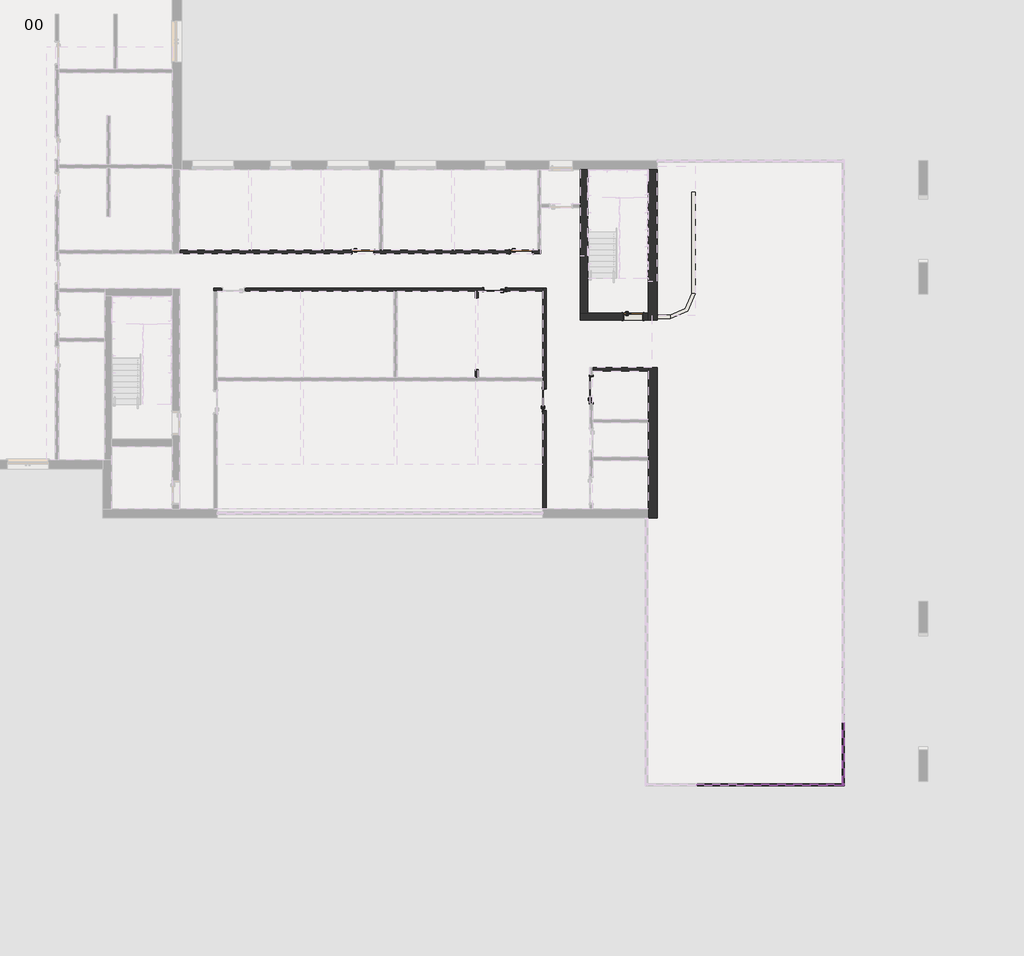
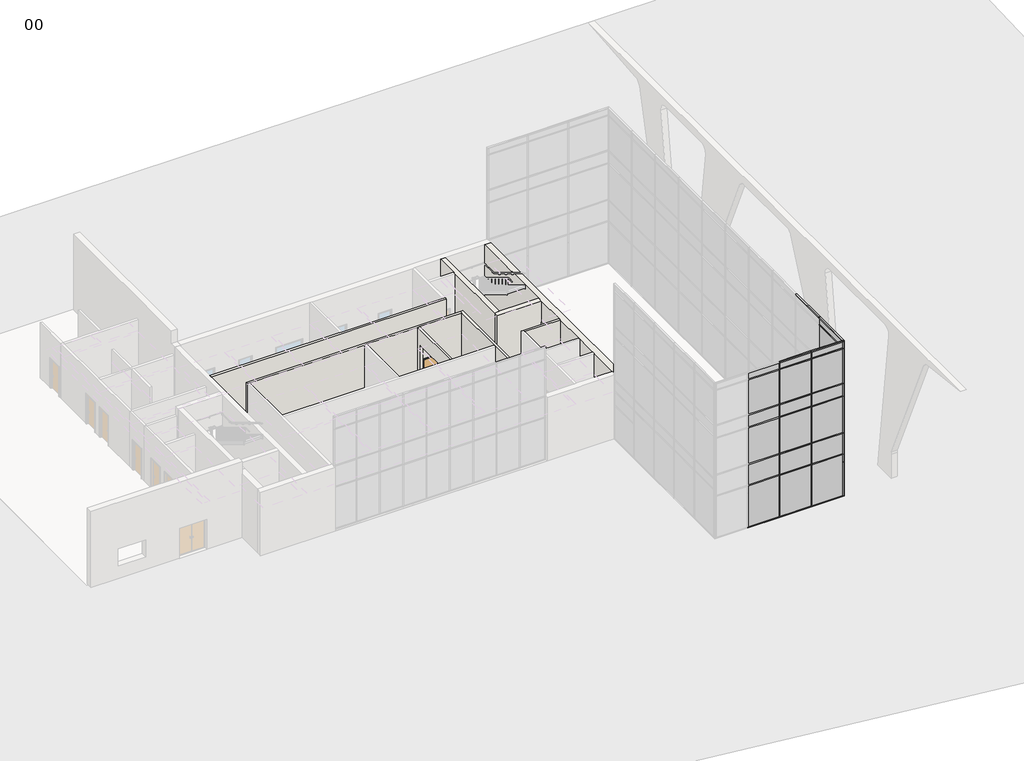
# One storey, part 4 of 11: 51 members, 24 plates, 11 walls, 6 doors.
"""IFC4 building model written with IfcOpenShell, lengths in millimetres."""

from ifc_helpers import new_model, si_unit, point, frame, frame_2d, origin, origin_with_axes, place, context, project, spatial, polyline, circle_curve, trimmed, segment, composite_curve, outline, extrude, faceted_brep, transform, mapped, element, save
from components import doors_intsgl_1_1010x2110mm_12a6edaf, doors_intsgl_1_1200x2110mm_e831e5cc, doors_intsgl_3_910x2110mm_ed6625c4, rectangular_mullion_curtainwallmullion_rectangular_generic_8ae0e668, rectangular_mullion_curtainwallmullion_rectangular_generic_15c16c91, rectangular_mullion_curtainwallmullion_rectangular_generic_08fbcc14, rectangular_mullion_curtainwallmullion_rectangular_generic_83e55909, rectangular_mullion_curtainwallmullion_rectangular_generic_d5294c93, rectangular_mullion_curtainwallmullion_rectangular_generic_779ca808, rectangular_mullion_curtainwallmullion_rectangular_generic_397fb318, rectangular_mullion_curtainwallmullion_rectangular_generic_0800385b, rectangular_mullion_curtainwallmullion_rectangular_generic_25199054, rectangular_mullion_curtainwallmullion_rectangular_generic_12ad56c0, rectangular_mullion_curtainwallmullion_rectangular_generic_bd817207, rectangular_mullion_curtainwallmullion_rectangular_generic_55e77994, rectangular_mullion_curtainwallmullion_rectangular_generic_f1446028, rectangular_mullion_curtainwallmullion_rectangular_generic_cb270087, rectangular_mullion_curtainwallmullion_rectangular_generic_974284e1, rectangular_mullion_curtainwallmullion_rectangular_generic_654ac675, rectangular_mullion_curtainwallmullion_rectangular_generic_e7c47ca9, rectangular_mullion_curtainwallmullion_rectangular_generic_c0600e94, rectangular_mullion_curtainwallmullion_rectangular_generic_3bdb59d8, rectangular_mullion_curtainwallmullion_rectangular_generic_aa8766cf, rectangular_mullion_curtainwallmullion_rectangular_generic_a50df724, rectangular_mullion_curtainwallmullion_rectangular_generic_c640f651, rectangular_mullion_curtainwallmullion_rectangular_generic_afb0b622, rectangular_mullion_curtainwallmullion_rectangular_generic_d47b8a9d, system_panel_curtainpanel_glazed_9120b6e5, system_panel_curtainpanel_glazed_34fb785a, system_panel_curtainpanel_glazed_a0842033, system_panel_curtainpanel_glazed_19b159b3, system_panel_curtainpanel_glazed_62d472f1, system_panel_curtainpanel_glazed_9c2ad216, system_panel_curtainpanel_solid_fc584997, system_panel_curtainpanel_solid_62146879, system_panel_curtainpanel_solid_ebe6707a, system_panel_curtainpanel_solid_ff987cd1, system_panel_curtainpanel_solid_60141125, system_panel_curtainpanel_solid_5de49f81

model = new_model("IFC4")

# Units and contexts
model_context = context("Model", 3, world=origin())
ifc_project = project(units=[si_unit("LENGTHUNIT", "METRE", prefix="MILLI")], contexts=[model_context])

# Site, building, storey
site = spatial("IfcSite", under=ifc_project)
building = spatial("IfcBuilding", under=site)
storey = spatial("IfcBuildingStorey", under=building, Name="00", Elevation=0.0)

# Doors
placement = place(None, origin())
doors_intsgl_1_1010x2110mm_shape = doors_intsgl_1_1010x2110mm_12a6edaf(model_context)
element("IfcDoor", 1, ObjectType="Doors_IntSgl_1 : 1010x2110mm", at=placement, inside=storey, context=model_context, shape_type="MappedRepresentation", body=[
    mapped(doors_intsgl_1_1010x2110mm_shape, transform((433317.3206883, -385124.0026386, 0.0), x_axis=(1.0, 0.0, 0.0), y_axis=(0.0, 1.0, 0.0), z_axis=(0.0, 0.0, 1.0))),
])
element("IfcDoor", 2, ObjectType="Doors_IntSgl_1 : 1010x2110mm", at=placement, inside=storey, context=model_context, shape_type="MappedRepresentation", body=[
    mapped(doors_intsgl_1_1010x2110mm_shape, transform((440217.3206883, -385124.0026386, 0.0), x_axis=(1.0, 0.0, 0.0), y_axis=(0.0, 1.0, 0.0), z_axis=(0.0, 0.0, 1.0))),
])
element("IfcDoor", 3, ObjectType="Doors_IntSgl_1 : 1010x2110mm", at=placement, inside=storey, context=model_context, shape_type="MappedRepresentation", body=[
    mapped(doors_intsgl_1_1010x2110mm_shape, transform((439053.3206883, -386774.0026386, 0.0), x_axis=(-1.0, 0.0, 0.0), y_axis=(0.0, -1.0, 0.0), z_axis=(0.0, 0.0, 1.0))),
])
element("IfcDoor", 4, ObjectType="Doors_IntSgl_1 : 1010x2110mm", at=placement, inside=storey, context=model_context, shape_type="MappedRepresentation", body=[
    mapped(doors_intsgl_1_1010x2110mm_shape, transform((441217.3206883, -391573.0026386, 0.0), x_axis=(0.0, 1.0, 0.0), y_axis=(-1.0, 0.0, 0.0), z_axis=(0.0, 0.0, 1.0))),
])
doors_intsgl_1_1200x2110mm_shape = doors_intsgl_1_1200x2110mm_e831e5cc(model_context)
element("IfcDoor", 5, ObjectType="Doors_IntSgl_1 : 1200x2110mm", at=placement, inside=storey, context=model_context, shape_type="MappedRepresentation", body=[
    mapped(doors_intsgl_1_1200x2110mm_shape, transform((443263.3206883, -391128.0026386, 0.0), x_axis=(0.0, 1.0, 0.0), y_axis=(-1.0, 0.0, 0.0), z_axis=(0.0, 0.0, 1.0))),
])
doors_intsgl_3_910x2110mm_shape = doors_intsgl_3_910x2110mm_ed6625c4(model_context)
element("IfcDoor", 6, ObjectType="Doors_IntSgl_3 : 910x2110mm", at=placement, inside=storey, context=model_context, shape_type="MappedRepresentation", body=[
    mapped(doors_intsgl_3_910x2110mm_shape, transform((445083.3206883, -387955.0026386, 0.0), x_axis=(1.0, 0.0, 0.0), y_axis=(0.0, 1.0, 0.0), z_axis=(0.0, 0.0, 1.0))),
])

# Members
rectangular_mullion_curtainwallmullion_rectangular_generic_shape = rectangular_mullion_curtainwallmullion_rectangular_generic_8ae0e668(model_context)
element("IfcMember", 7, ObjectType="Rectangular Mullion : CurtainWallMullion_Rectangular_Generic", at=placement, inside=storey, context=model_context, shape_type="MappedRepresentation", body=[
    mapped(rectangular_mullion_curtainwallmullion_rectangular_generic_shape, transform((452089.3206882, -408366.0026386, 10486.7), x_axis=(-1.0, 0.0, 0.0), y_axis=(0.0, 1.0, 0.0), z_axis=(0.0, 0.0, -1.0))),
])
element("IfcMember", 8, ObjectType="Rectangular Mullion : CurtainWallMullion_Rectangular_Generic", at=placement, inside=storey, context=model_context, shape_type="MappedRepresentation", body=[
    mapped(rectangular_mullion_curtainwallmullion_rectangular_generic_shape, transform((449957.3206883, -408366.0026386, 10486.7), x_axis=(-1.0, 0.0, 0.0), y_axis=(0.0, 1.0, 0.0), z_axis=(0.0, 0.0, -1.0))),
])
rectangular_mullion_curtainwallmullion_rectangular_generic_2_shape = rectangular_mullion_curtainwallmullion_rectangular_generic_15c16c91(model_context)
element("IfcMember", 9, ObjectType="Rectangular Mullion : CurtainWallMullion_Rectangular_Generic", at=placement, inside=storey, context=model_context, shape_type="MappedRepresentation", body=[
    mapped(rectangular_mullion_curtainwallmullion_rectangular_generic_2_shape, transform((454246.3206883, -408366.0026386, 10486.7), x_axis=(0.0, -1.0, 0.0), y_axis=(-1.0, 0.0, 0.0), z_axis=(0.0, 0.0, -1.0))),
])
element("IfcMember", 10, ObjectType="Rectangular Mullion : CurtainWallMullion_Rectangular_Generic", at=placement, inside=storey, context=model_context, shape_type="MappedRepresentation", body=[
    mapped(rectangular_mullion_curtainwallmullion_rectangular_generic_2_shape, transform((454246.3206883, -408366.0026386, 10950.0), x_axis=(1.0, 0.0, 0.0), y_axis=(0.0, 1.0, 0.0), z_axis=(0.0, 0.0, 1.0))),
])
rectangular_mullion_curtainwallmullion_rectangular_generic_3_shape = rectangular_mullion_curtainwallmullion_rectangular_generic_08fbcc14(model_context)
element("IfcMember", 11, ObjectType="Rectangular Mullion : CurtainWallMullion_Rectangular_Generic", at=placement, inside=storey, context=model_context, shape_type="MappedRepresentation", body=[
    mapped(rectangular_mullion_curtainwallmullion_rectangular_generic_3_shape, transform((452089.3206882, -408366.0026386, 8000.0), x_axis=(-1.0, 0.0, 0.0), y_axis=(0.0, 1.0, 0.0), z_axis=(0.0, 0.0, -1.0))),
])
element("IfcMember", 12, ObjectType="Rectangular Mullion : CurtainWallMullion_Rectangular_Generic", at=placement, inside=storey, context=model_context, shape_type="MappedRepresentation", body=[
    mapped(rectangular_mullion_curtainwallmullion_rectangular_generic_3_shape, transform((449957.3206883, -408366.0026386, 8000.0), x_axis=(-1.0, 0.0, 0.0), y_axis=(0.0, 1.0, 0.0), z_axis=(0.0, 0.0, -1.0))),
])
rectangular_mullion_curtainwallmullion_rectangular_generic_4_shape = rectangular_mullion_curtainwallmullion_rectangular_generic_83e55909(model_context)
element("IfcMember", 13, ObjectType="Rectangular Mullion : CurtainWallMullion_Rectangular_Generic", at=placement, inside=storey, context=model_context, shape_type="MappedRepresentation", body=[
    mapped(rectangular_mullion_curtainwallmullion_rectangular_generic_4_shape, transform((454246.3206883, -408366.0026386, 10486.7), x_axis=(1.0, 0.0, 0.0), y_axis=(0.0, 1.0, 0.0), z_axis=(0.0, 0.0, 1.0))),
])
element("IfcMember", 14, ObjectType="Rectangular Mullion : CurtainWallMullion_Rectangular_Generic", at=placement, inside=storey, context=model_context, shape_type="MappedRepresentation", body=[
    mapped(rectangular_mullion_curtainwallmullion_rectangular_generic_4_shape, transform((454246.3206883, -408366.0026386, 8000.0), x_axis=(0.0, -1.0, 0.0), y_axis=(-1.0, 0.0, 0.0), z_axis=(0.0, 0.0, -1.0))),
])
rectangular_mullion_curtainwallmullion_rectangular_generic_5_shape = rectangular_mullion_curtainwallmullion_rectangular_generic_d5294c93(model_context)
element("IfcMember", 15, ObjectType="Rectangular Mullion : CurtainWallMullion_Rectangular_Generic", at=placement, inside=storey, context=model_context, shape_type="MappedRepresentation", body=[
    mapped(rectangular_mullion_curtainwallmullion_rectangular_generic_5_shape, transform((452089.3206882, -408366.0026386, 50.0), x_axis=(-1.0, 0.0, 0.0), y_axis=(0.0, 1.0, 0.0), z_axis=(0.0, 0.0, -1.0))),
])
element("IfcMember", 16, ObjectType="Rectangular Mullion : CurtainWallMullion_Rectangular_Generic", at=placement, inside=storey, context=model_context, shape_type="MappedRepresentation", body=[
    mapped(rectangular_mullion_curtainwallmullion_rectangular_generic_5_shape, transform((449957.3206883, -408366.0026386, 50.0), x_axis=(-1.0, 0.0, 0.0), y_axis=(0.0, 1.0, 0.0), z_axis=(0.0, 0.0, -1.0))),
])
rectangular_mullion_curtainwallmullion_rectangular_generic_6_shape = rectangular_mullion_curtainwallmullion_rectangular_generic_779ca808(model_context)
element("IfcMember", 17, ObjectType="Rectangular Mullion : CurtainWallMullion_Rectangular_Generic", at=placement, inside=storey, context=model_context, shape_type="MappedRepresentation", body=[
    mapped(rectangular_mullion_curtainwallmullion_rectangular_generic_6_shape, transform((454246.3206883, -408366.0026386, 2450.0), x_axis=(1.0, 0.0, 0.0), y_axis=(0.0, 1.0, 0.0), z_axis=(0.0, 0.0, 1.0))),
])
rectangular_mullion_curtainwallmullion_rectangular_generic_7_shape = rectangular_mullion_curtainwallmullion_rectangular_generic_397fb318(model_context)
element("IfcMember", 18, ObjectType="Rectangular Mullion : CurtainWallMullion_Rectangular_Generic", at=placement, inside=storey, context=model_context, shape_type="MappedRepresentation", body=[
    mapped(rectangular_mullion_curtainwallmullion_rectangular_generic_7_shape, transform((454246.3206883, -408366.0026386, 50.0), x_axis=(0.0, -1.0, 0.0), y_axis=(-1.0, 0.0, 0.0), z_axis=(0.0, 0.0, -1.0))),
])
rectangular_mullion_curtainwallmullion_rectangular_generic_8_shape = rectangular_mullion_curtainwallmullion_rectangular_generic_0800385b(model_context)
element("IfcMember", 19, ObjectType="Rectangular Mullion : CurtainWallMullion_Rectangular_Generic", at=placement, inside=storey, context=model_context, shape_type="MappedRepresentation", body=[
    mapped(rectangular_mullion_curtainwallmullion_rectangular_generic_8_shape, transform((454246.3206883, -408366.0026386, 11000.0), x_axis=(0.0, 0.0, 1.0), y_axis=(-1.0, 0.0, 0.0), z_axis=(0.0, -1.0, 0.0))),
])
rectangular_mullion_curtainwallmullion_rectangular_generic_9_shape = rectangular_mullion_curtainwallmullion_rectangular_generic_25199054(model_context)
element("IfcMember", 20, ObjectType="Rectangular Mullion : CurtainWallMullion_Rectangular_Generic", at=placement, inside=storey, context=model_context, shape_type="MappedRepresentation", body=[
    mapped(rectangular_mullion_curtainwallmullion_rectangular_generic_9_shape, transform((452089.3206882, -408366.0026386, 11000.0), x_axis=(0.0, 0.0, 1.0), y_axis=(0.0, 1.0, 0.0), z_axis=(-1.0, 0.0, 0.0))),
])
rectangular_mullion_curtainwallmullion_rectangular_generic_10_shape = rectangular_mullion_curtainwallmullion_rectangular_generic_12ad56c0(model_context)
element("IfcMember", 21, ObjectType="Rectangular Mullion : CurtainWallMullion_Rectangular_Generic", at=placement, inside=storey, context=model_context, shape_type="MappedRepresentation", body=[
    mapped(rectangular_mullion_curtainwallmullion_rectangular_generic_10_shape, transform((454246.3206883, -405626.4026384, 11000.0), x_axis=(0.0, 0.0, 1.0), y_axis=(-1.0, 0.0, 0.0), z_axis=(0.0, -1.0, 0.0))),
])
rectangular_mullion_curtainwallmullion_rectangular_generic_11_shape = rectangular_mullion_curtainwallmullion_rectangular_generic_bd817207(model_context)
element("IfcMember", 22, ObjectType="Rectangular Mullion : CurtainWallMullion_Rectangular_Generic", at=placement, inside=storey, context=model_context, shape_type="MappedRepresentation", body=[
    mapped(rectangular_mullion_curtainwallmullion_rectangular_generic_11_shape, transform((454246.3206883, -408316.0026386, 4500.0), x_axis=(0.0, 0.0, 1.0), y_axis=(-1.0, 0.0, 0.0), z_axis=(0.0, -1.0, 0.0))),
])
element("IfcMember", 23, ObjectType="Rectangular Mullion : CurtainWallMullion_Rectangular_Generic", at=placement, inside=storey, context=model_context, shape_type="MappedRepresentation", body=[
    mapped(rectangular_mullion_curtainwallmullion_rectangular_generic_11_shape, transform((454246.3206883, -408316.0026386, 7100.0), x_axis=(0.0, 0.0, 1.0), y_axis=(-1.0, 0.0, 0.0), z_axis=(0.0, -1.0, 0.0))),
])
element("IfcMember", 24, ObjectType="Rectangular Mullion : CurtainWallMullion_Rectangular_Generic", at=placement, inside=storey, context=model_context, shape_type="MappedRepresentation", body=[
    mapped(rectangular_mullion_curtainwallmullion_rectangular_generic_11_shape, transform((454246.3206883, -408316.0026386, 10486.7), x_axis=(0.0, 0.0, 1.0), y_axis=(-1.0, 0.0, 0.0), z_axis=(0.0, -1.0, 0.0))),
])
element("IfcMember", 25, ObjectType="Rectangular Mullion : CurtainWallMullion_Rectangular_Generic", at=placement, inside=storey, context=model_context, shape_type="MappedRepresentation", body=[
    mapped(rectangular_mullion_curtainwallmullion_rectangular_generic_11_shape, transform((454246.3206883, -408316.0026386, 8000.0), x_axis=(0.0, 0.0, 1.0), y_axis=(-1.0, 0.0, 0.0), z_axis=(0.0, -1.0, 0.0))),
])
element("IfcMember", 26, ObjectType="Rectangular Mullion : CurtainWallMullion_Rectangular_Generic", at=placement, inside=storey, context=model_context, shape_type="MappedRepresentation", body=[
    mapped(rectangular_mullion_curtainwallmullion_rectangular_generic_11_shape, transform((454246.3206883, -408316.0026386, 3000.0), x_axis=(0.0, 0.0, 1.0), y_axis=(-1.0, 0.0, 0.0), z_axis=(0.0, -1.0, 0.0))),
])
rectangular_mullion_curtainwallmullion_rectangular_generic_12_shape = rectangular_mullion_curtainwallmullion_rectangular_generic_55e77994(model_context)
element("IfcMember", 27, ObjectType="Rectangular Mullion : CurtainWallMullion_Rectangular_Generic", at=placement, inside=storey, context=model_context, shape_type="MappedRepresentation", body=[
    mapped(rectangular_mullion_curtainwallmullion_rectangular_generic_12_shape, transform((454246.3206883, -405626.4026384, 0.0), x_axis=(0.0, 0.0, -1.0), y_axis=(-1.0, 0.0, 0.0), z_axis=(0.0, 1.0, 0.0))),
])
rectangular_mullion_curtainwallmullion_rectangular_generic_13_shape = rectangular_mullion_curtainwallmullion_rectangular_generic_f1446028(model_context)
element("IfcMember", 28, ObjectType="Rectangular Mullion : CurtainWallMullion_Rectangular_Generic", at=placement, inside=storey, context=model_context, shape_type="MappedRepresentation", body=[
    mapped(rectangular_mullion_curtainwallmullion_rectangular_generic_13_shape, transform((454246.3206883, -408366.0026386, 0.0), x_axis=(0.0, 0.0, -1.0), y_axis=(0.0, 1.0, 0.0), z_axis=(1.0, 0.0, 0.0))),
])
rectangular_mullion_curtainwallmullion_rectangular_generic_14_shape = rectangular_mullion_curtainwallmullion_rectangular_generic_cb270087(model_context)
element("IfcMember", 29, ObjectType="Rectangular Mullion : CurtainWallMullion_Rectangular_Generic", at=placement, inside=storey, context=model_context, shape_type="MappedRepresentation", body=[
    mapped(rectangular_mullion_curtainwallmullion_rectangular_generic_14_shape, transform((449957.3206883, -408366.0026386, 11000.0), x_axis=(0.0, 0.0, 1.0), y_axis=(0.0, 1.0, 0.0), z_axis=(-1.0, 0.0, 0.0))),
])
element("IfcMember", 30, ObjectType="Rectangular Mullion : CurtainWallMullion_Rectangular_Generic", at=placement, inside=storey, context=model_context, shape_type="MappedRepresentation", body=[
    mapped(rectangular_mullion_curtainwallmullion_rectangular_generic_14_shape, transform((452089.3206882, -408366.0026386, 0.0), x_axis=(0.0, 0.0, -1.0), y_axis=(0.0, 1.0, 0.0), z_axis=(1.0, 0.0, 0.0))),
])
element("IfcMember", 31, ObjectType="Rectangular Mullion : CurtainWallMullion_Rectangular_Generic", at=placement, inside=storey, context=model_context, shape_type="MappedRepresentation", body=[
    mapped(rectangular_mullion_curtainwallmullion_rectangular_generic_14_shape, transform((449957.3206883, -408366.0026386, 0.0), x_axis=(0.0, 0.0, -1.0), y_axis=(0.0, 1.0, 0.0), z_axis=(1.0, 0.0, 0.0))),
])
rectangular_mullion_curtainwallmullion_rectangular_generic_15_shape = rectangular_mullion_curtainwallmullion_rectangular_generic_974284e1(model_context)
element("IfcMember", 32, ObjectType="Rectangular Mullion : CurtainWallMullion_Rectangular_Generic", at=placement, inside=storey, context=model_context, shape_type="MappedRepresentation", body=[
    mapped(rectangular_mullion_curtainwallmullion_rectangular_generic_15_shape, transform((452114.3206882, -408366.0026386, 4500.0), x_axis=(0.0, 0.0, 1.0), y_axis=(0.0, 1.0, 0.0), z_axis=(-1.0, 0.0, 0.0))),
])
element("IfcMember", 33, ObjectType="Rectangular Mullion : CurtainWallMullion_Rectangular_Generic", at=placement, inside=storey, context=model_context, shape_type="MappedRepresentation", body=[
    mapped(rectangular_mullion_curtainwallmullion_rectangular_generic_15_shape, transform((449982.3206883, -408366.0026386, 4500.0), x_axis=(0.0, 0.0, 1.0), y_axis=(0.0, 1.0, 0.0), z_axis=(-1.0, 0.0, 0.0))),
])
element("IfcMember", 34, ObjectType="Rectangular Mullion : CurtainWallMullion_Rectangular_Generic", at=placement, inside=storey, context=model_context, shape_type="MappedRepresentation", body=[
    mapped(rectangular_mullion_curtainwallmullion_rectangular_generic_15_shape, transform((452114.3206882, -408366.0026386, 7100.0), x_axis=(0.0, 0.0, 1.0), y_axis=(0.0, 1.0, 0.0), z_axis=(-1.0, 0.0, 0.0))),
])
element("IfcMember", 35, ObjectType="Rectangular Mullion : CurtainWallMullion_Rectangular_Generic", at=placement, inside=storey, context=model_context, shape_type="MappedRepresentation", body=[
    mapped(rectangular_mullion_curtainwallmullion_rectangular_generic_15_shape, transform((449982.3206883, -408366.0026386, 7100.0), x_axis=(0.0, 0.0, 1.0), y_axis=(0.0, 1.0, 0.0), z_axis=(-1.0, 0.0, 0.0))),
])
element("IfcMember", 36, ObjectType="Rectangular Mullion : CurtainWallMullion_Rectangular_Generic", at=placement, inside=storey, context=model_context, shape_type="MappedRepresentation", body=[
    mapped(rectangular_mullion_curtainwallmullion_rectangular_generic_15_shape, transform((452114.3206882, -408366.0026386, 10486.7), x_axis=(0.0, 0.0, 1.0), y_axis=(0.0, 1.0, 0.0), z_axis=(-1.0, 0.0, 0.0))),
])
element("IfcMember", 37, ObjectType="Rectangular Mullion : CurtainWallMullion_Rectangular_Generic", at=placement, inside=storey, context=model_context, shape_type="MappedRepresentation", body=[
    mapped(rectangular_mullion_curtainwallmullion_rectangular_generic_15_shape, transform((449982.3206883, -408366.0026386, 10486.7), x_axis=(0.0, 0.0, 1.0), y_axis=(0.0, 1.0, 0.0), z_axis=(-1.0, 0.0, 0.0))),
])
element("IfcMember", 38, ObjectType="Rectangular Mullion : CurtainWallMullion_Rectangular_Generic", at=placement, inside=storey, context=model_context, shape_type="MappedRepresentation", body=[
    mapped(rectangular_mullion_curtainwallmullion_rectangular_generic_15_shape, transform((452114.3206882, -408366.0026386, 3000.0), x_axis=(0.0, 0.0, 1.0), y_axis=(0.0, 1.0, 0.0), z_axis=(-1.0, 0.0, 0.0))),
])
element("IfcMember", 39, ObjectType="Rectangular Mullion : CurtainWallMullion_Rectangular_Generic", at=placement, inside=storey, context=model_context, shape_type="MappedRepresentation", body=[
    mapped(rectangular_mullion_curtainwallmullion_rectangular_generic_15_shape, transform((449982.3206883, -408366.0026386, 3000.0), x_axis=(0.0, 0.0, 1.0), y_axis=(0.0, 1.0, 0.0), z_axis=(-1.0, 0.0, 0.0))),
])
element("IfcMember", 40, ObjectType="Rectangular Mullion : CurtainWallMullion_Rectangular_Generic", at=placement, inside=storey, context=model_context, shape_type="MappedRepresentation", body=[
    mapped(rectangular_mullion_curtainwallmullion_rectangular_generic_15_shape, transform((452114.3206882, -408366.0026386, 8000.0), x_axis=(0.0, 0.0, 1.0), y_axis=(0.0, 1.0, 0.0), z_axis=(-1.0, 0.0, 0.0))),
])
element("IfcMember", 41, ObjectType="Rectangular Mullion : CurtainWallMullion_Rectangular_Generic", at=placement, inside=storey, context=model_context, shape_type="MappedRepresentation", body=[
    mapped(rectangular_mullion_curtainwallmullion_rectangular_generic_15_shape, transform((449982.3206883, -408366.0026386, 8000.0), x_axis=(0.0, 0.0, 1.0), y_axis=(0.0, 1.0, 0.0), z_axis=(-1.0, 0.0, 0.0))),
])
rectangular_mullion_curtainwallmullion_rectangular_generic_16_shape = rectangular_mullion_curtainwallmullion_rectangular_generic_654ac675(model_context)
element("IfcMember", 42, ObjectType="Rectangular Mullion : CurtainWallMullion_Rectangular_Generic", at=placement, inside=storey, context=model_context, shape_type="MappedRepresentation", body=[
    mapped(rectangular_mullion_curtainwallmullion_rectangular_generic_16_shape, transform((452089.3206882, -408366.0026386, 4500.0), x_axis=(-1.0, 0.0, 0.0), y_axis=(0.0, 1.0, 0.0), z_axis=(0.0, 0.0, -1.0))),
])
element("IfcMember", 43, ObjectType="Rectangular Mullion : CurtainWallMullion_Rectangular_Generic", at=placement, inside=storey, context=model_context, shape_type="MappedRepresentation", body=[
    mapped(rectangular_mullion_curtainwallmullion_rectangular_generic_16_shape, transform((449957.3206883, -408366.0026386, 4500.0), x_axis=(-1.0, 0.0, 0.0), y_axis=(0.0, 1.0, 0.0), z_axis=(0.0, 0.0, -1.0))),
])
rectangular_mullion_curtainwallmullion_rectangular_generic_17_shape = rectangular_mullion_curtainwallmullion_rectangular_generic_e7c47ca9(model_context)
element("IfcMember", 44, ObjectType="Rectangular Mullion : CurtainWallMullion_Rectangular_Generic", at=placement, inside=storey, context=model_context, shape_type="MappedRepresentation", body=[
    mapped(rectangular_mullion_curtainwallmullion_rectangular_generic_17_shape, transform((454246.3206883, -408366.0026386, 4500.0), x_axis=(0.0, -1.0, 0.0), y_axis=(-1.0, 0.0, 0.0), z_axis=(0.0, 0.0, -1.0))),
])
element("IfcMember", 45, ObjectType="Rectangular Mullion : CurtainWallMullion_Rectangular_Generic", at=placement, inside=storey, context=model_context, shape_type="MappedRepresentation", body=[
    mapped(rectangular_mullion_curtainwallmullion_rectangular_generic_17_shape, transform((454246.3206883, -408366.0026386, 7100.0), x_axis=(1.0, 0.0, 0.0), y_axis=(0.0, 1.0, 0.0), z_axis=(0.0, 0.0, 1.0))),
])
rectangular_mullion_curtainwallmullion_rectangular_generic_18_shape = rectangular_mullion_curtainwallmullion_rectangular_generic_c0600e94(model_context)
element("IfcMember", 46, ObjectType="Rectangular Mullion : CurtainWallMullion_Rectangular_Generic", at=placement, inside=storey, context=model_context, shape_type="MappedRepresentation", body=[
    mapped(rectangular_mullion_curtainwallmullion_rectangular_generic_18_shape, transform((452089.3206882, -408366.0026386, 3000.0), x_axis=(-1.0, 0.0, 0.0), y_axis=(0.0, 1.0, 0.0), z_axis=(0.0, 0.0, -1.0))),
])
element("IfcMember", 47, ObjectType="Rectangular Mullion : CurtainWallMullion_Rectangular_Generic", at=placement, inside=storey, context=model_context, shape_type="MappedRepresentation", body=[
    mapped(rectangular_mullion_curtainwallmullion_rectangular_generic_18_shape, transform((449957.3206883, -408366.0026386, 3000.0), x_axis=(-1.0, 0.0, 0.0), y_axis=(0.0, 1.0, 0.0), z_axis=(0.0, 0.0, -1.0))),
])
rectangular_mullion_curtainwallmullion_rectangular_generic_19_shape = rectangular_mullion_curtainwallmullion_rectangular_generic_3bdb59d8(model_context)
element("IfcMember", 48, ObjectType="Rectangular Mullion : CurtainWallMullion_Rectangular_Generic", at=placement, inside=storey, context=model_context, shape_type="MappedRepresentation", body=[
    mapped(rectangular_mullion_curtainwallmullion_rectangular_generic_19_shape, transform((454246.3206883, -408366.0026386, 3000.0), x_axis=(0.0, -1.0, 0.0), y_axis=(-1.0, 0.0, 0.0), z_axis=(0.0, 0.0, -1.0))),
])
element("IfcMember", 49, ObjectType="Rectangular Mullion : CurtainWallMullion_Rectangular_Generic", at=placement, inside=storey, context=model_context, shape_type="MappedRepresentation", body=[
    mapped(rectangular_mullion_curtainwallmullion_rectangular_generic_19_shape, transform((454246.3206883, -408366.0026386, 4500.0), x_axis=(1.0, 0.0, 0.0), y_axis=(0.0, 1.0, 0.0), z_axis=(0.0, 0.0, 1.0))),
])
rectangular_mullion_curtainwallmullion_rectangular_generic_20_shape = rectangular_mullion_curtainwallmullion_rectangular_generic_aa8766cf(model_context)
element("IfcMember", 50, ObjectType="Rectangular Mullion : CurtainWallMullion_Rectangular_Generic", at=placement, inside=storey, context=model_context, shape_type="MappedRepresentation", body=[
    mapped(rectangular_mullion_curtainwallmullion_rectangular_generic_20_shape, transform((452089.3206882, -408366.0026386, 2450.0), x_axis=(-1.0, 0.0, 0.0), y_axis=(0.0, 1.0, 0.0), z_axis=(0.0, 0.0, -1.0))),
])
element("IfcMember", 51, ObjectType="Rectangular Mullion : CurtainWallMullion_Rectangular_Generic", at=placement, inside=storey, context=model_context, shape_type="MappedRepresentation", body=[
    mapped(rectangular_mullion_curtainwallmullion_rectangular_generic_20_shape, transform((449957.3206883, -408366.0026386, 2450.0), x_axis=(-1.0, 0.0, 0.0), y_axis=(0.0, 1.0, 0.0), z_axis=(0.0, 0.0, -1.0))),
])
rectangular_mullion_curtainwallmullion_rectangular_generic_21_shape = rectangular_mullion_curtainwallmullion_rectangular_generic_a50df724(model_context)
element("IfcMember", 52, ObjectType="Rectangular Mullion : CurtainWallMullion_Rectangular_Generic", at=placement, inside=storey, context=model_context, shape_type="MappedRepresentation", body=[
    mapped(rectangular_mullion_curtainwallmullion_rectangular_generic_21_shape, transform((454246.3206883, -408366.0026386, 3000.0), x_axis=(1.0, 0.0, 0.0), y_axis=(0.0, 1.0, 0.0), z_axis=(0.0, 0.0, 1.0))),
])
rectangular_mullion_curtainwallmullion_rectangular_generic_22_shape = rectangular_mullion_curtainwallmullion_rectangular_generic_c640f651(model_context)
element("IfcMember", 53, ObjectType="Rectangular Mullion : CurtainWallMullion_Rectangular_Generic", at=placement, inside=storey, context=model_context, shape_type="MappedRepresentation", body=[
    mapped(rectangular_mullion_curtainwallmullion_rectangular_generic_22_shape, transform((452089.3206882, -408366.0026386, 7100.0), x_axis=(-1.0, 0.0, 0.0), y_axis=(0.0, 1.0, 0.0), z_axis=(0.0, 0.0, -1.0))),
])
element("IfcMember", 54, ObjectType="Rectangular Mullion : CurtainWallMullion_Rectangular_Generic", at=placement, inside=storey, context=model_context, shape_type="MappedRepresentation", body=[
    mapped(rectangular_mullion_curtainwallmullion_rectangular_generic_22_shape, transform((449957.3206883, -408366.0026386, 7100.0), x_axis=(-1.0, 0.0, 0.0), y_axis=(0.0, 1.0, 0.0), z_axis=(0.0, 0.0, -1.0))),
])
rectangular_mullion_curtainwallmullion_rectangular_generic_23_shape = rectangular_mullion_curtainwallmullion_rectangular_generic_afb0b622(model_context)
element("IfcMember", 55, ObjectType="Rectangular Mullion : CurtainWallMullion_Rectangular_Generic", at=placement, inside=storey, context=model_context, shape_type="MappedRepresentation", body=[
    mapped(rectangular_mullion_curtainwallmullion_rectangular_generic_23_shape, transform((454246.3206883, -408366.0026386, 7100.0), x_axis=(0.0, -1.0, 0.0), y_axis=(-1.0, 0.0, 0.0), z_axis=(0.0, 0.0, -1.0))),
])
element("IfcMember", 56, ObjectType="Rectangular Mullion : CurtainWallMullion_Rectangular_Generic", at=placement, inside=storey, context=model_context, shape_type="MappedRepresentation", body=[
    mapped(rectangular_mullion_curtainwallmullion_rectangular_generic_23_shape, transform((454246.3206883, -408366.0026386, 8000.0), x_axis=(1.0, 0.0, 0.0), y_axis=(0.0, 1.0, 0.0), z_axis=(0.0, 0.0, 1.0))),
])
rectangular_mullion_curtainwallmullion_rectangular_generic_24_shape = rectangular_mullion_curtainwallmullion_rectangular_generic_d47b8a9d(model_context)
element("IfcMember", 57, ObjectType="Rectangular Mullion : CurtainWallMullion_Rectangular_Generic", at=placement, inside=storey, context=model_context, shape_type="MappedRepresentation", body=[
    mapped(rectangular_mullion_curtainwallmullion_rectangular_generic_24_shape, transform((454246.3206883, -408366.0026386, 2425.0), x_axis=(0.0, -1.0, 0.0), y_axis=(-1.0, 0.0, 0.0), z_axis=(0.0, 0.0, -1.0))),
])

# Plates
system_panel_curtainpanel_glazed_shape = system_panel_curtainpanel_glazed_9120b6e5(model_context)
element("IfcPlate", 58, ObjectType="System Panel : CurtainPanel_Glazed", at=placement, inside=storey, context=model_context, shape_type="MappedRepresentation", body=[
    mapped(system_panel_curtainpanel_glazed_shape, transform((453155.3206883, -408366.0026386, 8025.0), x_axis=(-1.0, 0.0, 0.0), y_axis=(0.0, -1.0, 0.0), z_axis=(0.0, 0.0, 1.0))),
])
element("IfcPlate", 59, ObjectType="System Panel : CurtainPanel_Glazed", at=placement, inside=storey, context=model_context, shape_type="MappedRepresentation", body=[
    mapped(system_panel_curtainpanel_glazed_shape, transform((451023.3206883, -408366.0026386, 8025.0), x_axis=(-1.0, 0.0, 0.0), y_axis=(0.0, -1.0, 0.0), z_axis=(0.0, 0.0, 1.0))),
])
element("IfcPlate", 60, ObjectType="System Panel : CurtainPanel_Glazed", at=placement, inside=storey, context=model_context, shape_type="MappedRepresentation", body=[
    mapped(system_panel_curtainpanel_glazed_shape, transform((448891.3206884, -408366.0026386, 8025.0), x_axis=(-1.0, 0.0, 0.0), y_axis=(0.0, -1.0, 0.0), z_axis=(0.0, 0.0, 1.0))),
])
system_panel_curtainpanel_glazed_2_shape = system_panel_curtainpanel_glazed_34fb785a(model_context)
element("IfcPlate", 61, ObjectType="System Panel : CurtainPanel_Glazed", at=placement, inside=storey, context=model_context, shape_type="MappedRepresentation", body=[
    mapped(system_panel_curtainpanel_glazed_2_shape, transform((454246.3206883, -406983.7026385, 8025.0), x_axis=(0.0, -1.0, 0.0), y_axis=(1.0, 0.0, 0.0), z_axis=(0.0, 0.0, 1.0))),
])
system_panel_curtainpanel_glazed_3_shape = system_panel_curtainpanel_glazed_a0842033(model_context)
element("IfcPlate", 62, ObjectType="System Panel : CurtainPanel_Glazed", at=placement, inside=storey, context=model_context, shape_type="MappedRepresentation", body=[
    mapped(system_panel_curtainpanel_glazed_3_shape, transform((453155.3206883, -408366.0026386, 50.0), x_axis=(-1.0, 0.0, 0.0), y_axis=(0.0, -1.0, 0.0), z_axis=(0.0, 0.0, 1.0))),
])
element("IfcPlate", 63, ObjectType="System Panel : CurtainPanel_Glazed", at=placement, inside=storey, context=model_context, shape_type="MappedRepresentation", body=[
    mapped(system_panel_curtainpanel_glazed_3_shape, transform((451023.3206883, -408366.0026386, 50.0), x_axis=(-1.0, 0.0, 0.0), y_axis=(0.0, -1.0, 0.0), z_axis=(0.0, 0.0, 1.0))),
])
element("IfcPlate", 64, ObjectType="System Panel : CurtainPanel_Glazed", at=placement, inside=storey, context=model_context, shape_type="MappedRepresentation", body=[
    mapped(system_panel_curtainpanel_glazed_3_shape, transform((448891.3206884, -408366.0026386, 50.0), x_axis=(-1.0, 0.0, 0.0), y_axis=(0.0, -1.0, 0.0), z_axis=(0.0, 0.0, 1.0))),
])
system_panel_curtainpanel_glazed_4_shape = system_panel_curtainpanel_glazed_19b159b3(model_context)
element("IfcPlate", 65, ObjectType="System Panel : CurtainPanel_Glazed", at=placement, inside=storey, context=model_context, shape_type="MappedRepresentation", body=[
    mapped(system_panel_curtainpanel_glazed_4_shape, transform((453155.3206883, -408366.0026386, 4525.0), x_axis=(-1.0, 0.0, 0.0), y_axis=(0.0, -1.0, 0.0), z_axis=(0.0, 0.0, 1.0))),
])
element("IfcPlate", 66, ObjectType="System Panel : CurtainPanel_Glazed", at=placement, inside=storey, context=model_context, shape_type="MappedRepresentation", body=[
    mapped(system_panel_curtainpanel_glazed_4_shape, transform((451023.3206883, -408366.0026386, 4525.0), x_axis=(-1.0, 0.0, 0.0), y_axis=(0.0, -1.0, 0.0), z_axis=(0.0, 0.0, 1.0))),
])
element("IfcPlate", 67, ObjectType="System Panel : CurtainPanel_Glazed", at=placement, inside=storey, context=model_context, shape_type="MappedRepresentation", body=[
    mapped(system_panel_curtainpanel_glazed_4_shape, transform((448891.3206884, -408366.0026386, 4525.0), x_axis=(-1.0, 0.0, 0.0), y_axis=(0.0, -1.0, 0.0), z_axis=(0.0, 0.0, 1.0))),
])
system_panel_curtainpanel_glazed_5_shape = system_panel_curtainpanel_glazed_62d472f1(model_context)
element("IfcPlate", 68, ObjectType="System Panel : CurtainPanel_Glazed", at=placement, inside=storey, context=model_context, shape_type="MappedRepresentation", body=[
    mapped(system_panel_curtainpanel_glazed_5_shape, transform((454246.3206883, -406983.7026385, 50.0), x_axis=(0.0, -1.0, 0.0), y_axis=(1.0, 0.0, 0.0), z_axis=(0.0, 0.0, 1.0))),
])
system_panel_curtainpanel_glazed_6_shape = system_panel_curtainpanel_glazed_9c2ad216(model_context)
element("IfcPlate", 69, ObjectType="System Panel : CurtainPanel_Glazed", at=placement, inside=storey, context=model_context, shape_type="MappedRepresentation", body=[
    mapped(system_panel_curtainpanel_glazed_6_shape, transform((454246.3206883, -406983.7026385, 4525.0), x_axis=(0.0, -1.0, 0.0), y_axis=(1.0, 0.0, 0.0), z_axis=(0.0, 0.0, 1.0))),
])
system_panel_curtainpanel_solid_shape = system_panel_curtainpanel_solid_fc584997(model_context)
element("IfcPlate", 70, ObjectType="System Panel : CurtainPanel_Solid", at=placement, inside=storey, context=model_context, shape_type="MappedRepresentation", body=[
    mapped(system_panel_curtainpanel_solid_shape, transform((454246.3206883, -406983.7026385, 10511.7), x_axis=(0.0, -1.0, 0.0), y_axis=(1.0, 0.0, 0.0), z_axis=(0.0, 0.0, 1.0))),
])
system_panel_curtainpanel_solid_2_shape = system_panel_curtainpanel_solid_62146879(model_context)
element("IfcPlate", 71, ObjectType="System Panel : CurtainPanel_Solid", at=placement, inside=storey, context=model_context, shape_type="MappedRepresentation", body=[
    mapped(system_panel_curtainpanel_solid_2_shape, transform((453155.3206883, -408366.0026386, 10511.7), x_axis=(-1.0, 0.0, 0.0), y_axis=(0.0, -1.0, 0.0), z_axis=(0.0, 0.0, 1.0))),
])
element("IfcPlate", 72, ObjectType="System Panel : CurtainPanel_Solid", at=placement, inside=storey, context=model_context, shape_type="MappedRepresentation", body=[
    mapped(system_panel_curtainpanel_solid_2_shape, transform((451023.3206883, -408366.0026386, 10511.7), x_axis=(-1.0, 0.0, 0.0), y_axis=(0.0, -1.0, 0.0), z_axis=(0.0, 0.0, 1.0))),
])
element("IfcPlate", 73, ObjectType="System Panel : CurtainPanel_Solid", at=placement, inside=storey, context=model_context, shape_type="MappedRepresentation", body=[
    mapped(system_panel_curtainpanel_solid_2_shape, transform((448891.3206884, -408366.0026386, 10511.7), x_axis=(-1.0, 0.0, 0.0), y_axis=(0.0, -1.0, 0.0), z_axis=(0.0, 0.0, 1.0))),
])
system_panel_curtainpanel_solid_3_shape = system_panel_curtainpanel_solid_ebe6707a(model_context)
element("IfcPlate", 74, ObjectType="System Panel : CurtainPanel_Solid", at=placement, inside=storey, context=model_context, shape_type="MappedRepresentation", body=[
    mapped(system_panel_curtainpanel_solid_3_shape, transform((453155.3206883, -408366.0026386, 3025.0), x_axis=(-1.0, 0.0, 0.0), y_axis=(0.0, -1.0, 0.0), z_axis=(0.0, 0.0, 1.0))),
])
element("IfcPlate", 75, ObjectType="System Panel : CurtainPanel_Solid", at=placement, inside=storey, context=model_context, shape_type="MappedRepresentation", body=[
    mapped(system_panel_curtainpanel_solid_3_shape, transform((451023.3206883, -408366.0026386, 3025.0), x_axis=(-1.0, 0.0, 0.0), y_axis=(0.0, -1.0, 0.0), z_axis=(0.0, 0.0, 1.0))),
])
element("IfcPlate", 76, ObjectType="System Panel : CurtainPanel_Solid", at=placement, inside=storey, context=model_context, shape_type="MappedRepresentation", body=[
    mapped(system_panel_curtainpanel_solid_3_shape, transform((448891.3206884, -408366.0026386, 3025.0), x_axis=(-1.0, 0.0, 0.0), y_axis=(0.0, -1.0, 0.0), z_axis=(0.0, 0.0, 1.0))),
])
system_panel_curtainpanel_solid_4_shape = system_panel_curtainpanel_solid_ff987cd1(model_context)
element("IfcPlate", 77, ObjectType="System Panel : CurtainPanel_Solid", at=placement, inside=storey, context=model_context, shape_type="MappedRepresentation", body=[
    mapped(system_panel_curtainpanel_solid_4_shape, transform((453155.3206883, -408366.0026386, 7125.0), x_axis=(-1.0, 0.0, 0.0), y_axis=(0.0, -1.0, 0.0), z_axis=(0.0, 0.0, 1.0))),
])
element("IfcPlate", 78, ObjectType="System Panel : CurtainPanel_Solid", at=placement, inside=storey, context=model_context, shape_type="MappedRepresentation", body=[
    mapped(system_panel_curtainpanel_solid_4_shape, transform((451023.3206883, -408366.0026386, 7125.0), x_axis=(-1.0, 0.0, 0.0), y_axis=(0.0, -1.0, 0.0), z_axis=(0.0, 0.0, 1.0))),
])
element("IfcPlate", 79, ObjectType="System Panel : CurtainPanel_Solid", at=placement, inside=storey, context=model_context, shape_type="MappedRepresentation", body=[
    mapped(system_panel_curtainpanel_solid_4_shape, transform((448891.3206884, -408366.0026386, 7125.0), x_axis=(-1.0, 0.0, 0.0), y_axis=(0.0, -1.0, 0.0), z_axis=(0.0, 0.0, 1.0))),
])
system_panel_curtainpanel_solid_5_shape = system_panel_curtainpanel_solid_60141125(model_context)
element("IfcPlate", 80, ObjectType="System Panel : CurtainPanel_Solid", at=placement, inside=storey, context=model_context, shape_type="MappedRepresentation", body=[
    mapped(system_panel_curtainpanel_solid_5_shape, transform((454246.3206883, -406983.7026385, 3025.0), x_axis=(0.0, -1.0, 0.0), y_axis=(1.0, 0.0, 0.0), z_axis=(0.0, 0.0, 1.0))),
])
system_panel_curtainpanel_solid_6_shape = system_panel_curtainpanel_solid_5de49f81(model_context)
element("IfcPlate", 81, ObjectType="System Panel : CurtainPanel_Solid", at=placement, inside=storey, context=model_context, shape_type="MappedRepresentation", body=[
    mapped(system_panel_curtainpanel_solid_6_shape, transform((454246.3206883, -406983.7026385, 7125.0), x_axis=(0.0, -1.0, 0.0), y_axis=(1.0, 0.0, 0.0), z_axis=(0.0, 0.0, 1.0))),
])

# Walls
element("IfcWall", 82, ObjectType="Wall_Exterior_WSUK", at=placement, inside=storey, context=model_context, shape_type="Brep", body=[
    faceted_brep([(445738.3206883, -381550.0026386, -1000.0), (445738.3206883, -387800.0026386, -1000.0), (445738.3206883, -388110.0026386, -1000.0), (445738.3206883, -396328.0026386, -1000.0), (445738.3206883, -396730.0026386, -1000.0), (445738.3206883, -396730.0026386, 4500.0), (445738.3206883, -396328.0026386, 4500.0), (445738.3206883, -394228.0026386, 4500.0), (445738.3206883, -394078.0026386, 4500.0), (445738.3206883, -392578.0026386, 4500.0), (445738.3206883, -392428.0026386, 4500.0), (445738.3206883, -390328.0026386, 4500.0), (445738.3206883, -390178.0026386, 4500.0), (445738.3206883, -388110.0026386, 4500.0), (445738.3206883, -387800.0026386, 4500.0), (445738.3206883, -381550.0026386, 4500.0), (445738.3206883, -388110.0026386, 3000.0), (445738.3206883, -390178.0026386, 3000.0), (445738.3206883, -390178.0026386, 0.0), (445738.3206883, -390178.0026386, -500.0), (445738.3206883, -388110.0026386, -500.0), (445738.3206883, -388110.0026386, 0.0), (445738.3206883, -388030.0026386, 0.0), (445738.3206883, -388030.0026386, 800.0), (445738.3206883, -388110.0026386, 800.0), (446140.3206883, -396730.0026386, 4500.0), (446140.3206883, -396730.0026386, -1000.0), (446140.3206883, -381550.0026386, -1000.0), (446140.3206883, -381550.0026386, 4500.0), (446140.3206883, -388110.0026386, 4500.0), (446140.3206883, -390178.0026386, 4500.0), (446140.3206883, -390178.0026386, 3000.0), (446140.3206883, -388110.0026386, 3000.0), (446140.3206883, -388110.0026386, 800.0), (446140.3206883, -388030.0026386, 800.0), (446140.3206883, -388030.0026386, 0.0), (446140.3206883, -388110.0026386, 0.0), (446140.3206883, -388110.0026386, -500.0), (446140.3206883, -390178.0026386, -500.0)], [[[0, 1, 2, 3, 4, 5, 6, 7, 8, 9, 10, 11, 12, 13, 14, 15], [16, 17, 18, 19, 20, 21, 22, 23, 24]], [[25, 26, 27, 28, 29, 30], [31, 32, 33, 34, 35, 36, 37, 38]], [[4, 3, 2, 1, 0, 27, 26]], [[15, 14, 13, 12, 11, 10, 9, 8, 7, 6, 5, 25, 30, 29, 28]], [[0, 15, 28, 27]], [[4, 26, 25, 5]], [[16, 32, 31, 17]], [[19, 38, 37, 20]], [[32, 16, 24, 33]], [[35, 22, 21, 36]], [[21, 20, 37, 36]], [[33, 24, 23, 34]], [[23, 22, 35, 34]], [[17, 31, 38, 19, 18]]]),
])
element("IfcWall", 83, ObjectType="Wall_Interior_WSUK", at=placement, inside=storey, context=model_context, shape_type="Brep", body=[
    faceted_brep([(441072.3206883, -385199.0026386, 4500.0), (425322.3206883, -385199.0026386, 4500.0), (425322.3206883, -385199.0026386, 3019.2), (425322.3206883, -385199.0026386, 0.0), (432812.3206883, -385199.0026386, 0.0), (432812.3206883, -385199.0026386, 2110.0), (433822.3206883, -385199.0026386, 2110.0), (433822.3206883, -385199.0026386, 0.0), (439712.3206883, -385199.0026386, 0.0), (439712.3206883, -385199.0026386, 2110.0), (440722.3206883, -385199.0026386, 2110.0), (440722.3206883, -385199.0026386, 0.0), (441072.3206883, -385199.0026386, 0.0), (425322.3206883, -385049.0026386, 4500.0), (434022.3206883, -385049.0026386, 4500.0), (434172.3206883, -385049.0026386, 4500.0), (440922.3206883, -385049.0026386, 4500.0), (441072.3206883, -385049.0026386, 4500.0), (441072.3206883, -385049.0026386, 0.0), (440922.3206883, -385049.0026386, 0.0), (440722.3206883, -385049.0026386, 0.0), (440722.3206883, -385049.0026386, 2110.0), (439712.3206883, -385049.0026386, 2110.0), (439712.3206883, -385049.0026386, 0.0), (434172.3206883, -385049.0026386, 0.0), (434022.3206883, -385049.0026386, 0.0), (433822.3206883, -385049.0026386, 0.0), (433822.3206883, -385049.0026386, 2110.0), (432812.3206883, -385049.0026386, 2110.0), (432812.3206883, -385049.0026386, 0.0), (425322.3206883, -385049.0026386, 0.0)], [[[0, 1, 2, 3, 4, 5, 6, 7, 8, 9, 10, 11, 12]], [[13, 14, 15, 16, 17, 18, 19, 20, 21, 22, 23, 24, 25, 26, 27, 28, 29, 30]], [[18, 12, 11, 20, 19]], [[7, 26, 25, 24, 23, 8]], [[29, 4, 3, 30]], [[1, 0, 17, 16, 15, 14, 13]], [[0, 12, 18, 17]], [[6, 27, 26, 7]], [[27, 6, 5, 28]], [[28, 5, 4, 29]], [[10, 21, 20, 11]], [[21, 10, 9, 22]], [[22, 9, 8, 23]], [[1, 13, 30, 3, 2]]]),
])
element("IfcWall", 84, ObjectType="Wall_Exterior_WSUK 2hr", at=placement, inside=storey, context=model_context, shape_type="Brep", body=[
    faceted_brep([(442792.3206883, -381550.0026386, -1000.0), (442792.3206883, -387800.0026386, -1000.0), (442792.3206883, -387800.0026386, 4500.0), (442792.3206883, -383200.0026386, 4500.0), (442792.3206883, -383050.0026386, 4500.0), (442792.3206883, -381550.0026386, 4500.0), (443102.3206883, -381550.0026386, -1000.0), (443102.3206883, -381550.0026386, 4500.0), (443102.3206883, -387800.0026386, 4500.0), (443102.3206883, -387800.0026386, -1000.0)], [[[0, 1, 2, 3, 4, 5]], [[6, 7, 8, 9]], [[1, 0, 6, 9]], [[5, 4, 3, 2, 8, 7]], [[0, 5, 7, 6]], [[2, 1, 9, 8]]]),
])
element("IfcWall", 85, ObjectType="Wall_Interior_WSUK", at=placement, inside=storey, context=model_context, shape_type="SweptSolid", body=[
    extrude(outline(polyline([(446715.3206883, -388030.0026386), (446140.3206883, -388030.0026386), (446140.3206883, -387880.0026386), (446715.3206883, -387880.0026386), (446715.3206883, -388030.0026386)])), origin_with_axes(), (0.0, 0.0, 1.0), 800.0),
])
element("IfcWall", 86, ObjectType="Wall_Interior_WSUK", at=placement, inside=storey, context=model_context, shape_type="SweptSolid", body=[
    extrude(outline(polyline([(447790.3206883, -382533.0026386), (447790.3206883, -386955.0026386), (447640.3206883, -386955.0026386), (447640.3206883, -382533.0026386), (447790.3206883, -382533.0026386)])), origin_with_axes(), (0.0, 0.0, 1.0), 800.0),
])
element("IfcWall", 87, ObjectType="Wall_Interior_WSUK", at=placement, inside=storey, context=model_context, shape_type="Brep", body=[
    faceted_brep([(443338.3206883, -390328.0026386, 0.0), (445738.3206883, -390328.0026386, 0.0), (445738.3206883, -390328.0026386, 4500.0), (443338.3206883, -390328.0026386, 4500.0), (443338.3206883, -390178.0026386, 0.0), (443338.3206883, -390178.0026386, 4500.0), (445738.3206883, -390178.0026386, 4500.0), (445738.3206883, -390178.0026386, 3000.0), (445738.3206883, -390178.0026386, 0.0)], [[[0, 1, 2, 3]], [[4, 5, 6, 7, 8]], [[1, 0, 4, 8]], [[3, 2, 6, 5]], [[0, 3, 5, 4]], [[2, 1, 8, 7, 6]]]),
])
element("IfcWall", 88, ObjectType="Wall_Interior_WSUK", at=placement, inside=storey, context=model_context, shape_type="Brep", body=[
    faceted_brep([(441142.3206883, -386849.0026386, 4500.0), (438348.3206883, -386849.0026386, 4500.0), (438198.3206883, -386849.0026386, 4500.0), (434802.8762438, -386849.0026386, 4500.0), (434652.8762438, -386849.0026386, 4500.0), (426972.3206883, -386849.0026386, 4500.0), (426822.3206883, -386849.0026386, 4500.0), (426822.3206883, -386849.0026386, 0.0), (426972.3206883, -386849.0026386, 0.0), (427172.3206883, -386849.0026386, 0.0), (427172.3206883, -386849.0026386, 2110.0), (428182.3206883, -386849.0026386, 2110.0), (428182.3206883, -386849.0026386, 0.0), (434652.8762438, -386849.0026386, 0.0), (434802.8762438, -386849.0026386, 0.0), (438198.3206883, -386849.0026386, 0.0), (438348.3206883, -386849.0026386, 0.0), (438548.3206883, -386849.0026386, 0.0), (438548.3206883, -386849.0026386, 2110.0), (439558.3206883, -386849.0026386, 2110.0), (439558.3206883, -386849.0026386, 0.0), (441142.3206883, -386849.0026386, 0.0), (426822.3206883, -386699.0026386, 4500.0), (441142.3206883, -386699.0026386, 4500.0), (441142.3206883, -386699.0026386, 0.0), (439558.3206883, -386699.0026386, 0.0), (439558.3206883, -386699.0026386, 2110.0), (438548.3206883, -386699.0026386, 2110.0), (438548.3206883, -386699.0026386, 0.0), (428182.3206883, -386699.0026386, 0.0), (428182.3206883, -386699.0026386, 2110.0), (427172.3206883, -386699.0026386, 2110.0), (427172.3206883, -386699.0026386, 0.0), (426822.3206883, -386699.0026386, 0.0)], [[[0, 1, 2, 3, 4, 5, 6, 7, 8, 9, 10, 11, 12, 13, 14, 15, 16, 17, 18, 19, 20, 21]], [[22, 23, 24, 25, 26, 27, 28, 29, 30, 31, 32, 33]], [[7, 33, 32, 9, 8]], [[24, 21, 20, 25]], [[28, 17, 16, 15, 14, 13, 12, 29]], [[6, 5, 4, 3, 2, 1, 0, 23, 22]], [[7, 6, 22, 33]], [[0, 21, 24, 23]], [[27, 18, 17, 28]], [[18, 27, 26, 19]], [[19, 26, 25, 20]], [[31, 10, 9, 32]], [[10, 31, 30, 11]], [[11, 30, 29, 12]]]),
])
element("IfcWall", 89, ObjectType="Wall_Interior_WSUK", at=placement, inside=storey, context=model_context, shape_type="Brep", body=[
    faceted_brep([(441142.3206883, -396328.0026386, 4500.0), (441142.3206883, -390768.0026386, 4500.0), (441142.3206883, -390618.0026386, 4500.0), (441142.3206883, -386849.0026386, 4500.0), (441142.3206883, -386699.0026386, 4500.0), (441142.3206883, -386699.0026386, 0.0), (441142.3206883, -386849.0026386, 0.0), (441142.3206883, -390618.0026386, 0.0), (441142.3206883, -390768.0026386, 0.0), (441142.3206883, -391068.0026386, 0.0), (441142.3206883, -391068.0026386, 2110.0), (441142.3206883, -392078.0026386, 2110.0), (441142.3206883, -392078.0026386, 0.0), (441142.3206883, -396328.0026386, 0.0), (441292.3206883, -386699.0026386, 4500.0), (441292.3206883, -396328.0026386, 4500.0), (441292.3206883, -396328.0026386, 0.0), (441292.3206883, -392078.0026386, 0.0), (441292.3206883, -392078.0026386, 2110.0), (441292.3206883, -391068.0026386, 2110.0), (441292.3206883, -391068.0026386, 0.0), (441292.3206883, -386699.0026386, 0.0)], [[[0, 1, 2, 3, 4, 5, 6, 7, 8, 9, 10, 11, 12, 13]], [[14, 15, 16, 17, 18, 19, 20, 21]], [[5, 21, 20, 9, 8, 7, 6]], [[16, 13, 12, 17]], [[4, 3, 2, 1, 0, 15, 14]], [[5, 4, 14, 21]], [[0, 13, 16, 15]], [[19, 10, 9, 20]], [[10, 19, 18, 11]], [[11, 18, 17, 12]]]),
])
element("IfcWall", 90, ObjectType="Wall_Interior_WSUK", at=placement, inside=storey, context=model_context, shape_type="SweptSolid", body=[
    extrude(outline(polyline([(-390618.0026386, 0.0), (-390618.0026386, 4500.0), (-386849.0026386, 4500.0), (-386849.0026386, 0.0), (-387149.0026386, 0.0), (-387149.0026386, 3400.0), (-390249.0026386, 3400.0), (-390249.0026386, 0.0), (-390618.0026386, 0.0)])), frame((438198.3206883, 0.0, 0.0), z_axis=(1.0, 0.0, 0.0), x_axis=(0.0, 1.0, 0.0)), (0.0, 0.0, 1.0), 150.0),
])
element("IfcWall", 91, ObjectType="Wall_Interior_WSUK", at=placement, inside=storey, context=model_context, shape_type="SweptSolid", body=[
    extrude(outline(composite_curve([segment(polyline([(447640.3206883, -386955.0026386), (447790.3206883, -386955.0026386)]), True, "CONTINUOUS"), segment(trimmed(circle_curve(frame_2d((446715.3206883, -386955.0026386)), 1075.0), [point((447790.3206883, -386955.0026386))], [point((446715.3206883, -388030.0026386))], False, "CARTESIAN"), True, "CONTINUOUS"), segment(polyline([(446715.3206883, -388030.0026386), (446715.3206883, -387880.0026386)]), True, "CONTINUOUS"), segment(trimmed(circle_curve(frame_2d((446715.3206883, -386955.0026386)), 925.0), [point((446715.3206883, -387880.0026386))], [point((447640.3206883, -386955.0026386))], True, "CARTESIAN"), True, "CONTINUOUS")], self_intersect=False)), origin_with_axes(), (0.0, 0.0, 1.0), 800.0),
])
element("IfcWall", 92, ObjectType="Wall_Exterior_WSUK 2hr", at=placement, inside=storey, context=model_context, shape_type="Brep", body=[
    faceted_brep([(445738.3206883, -387800.0026386, 4500.0), (445738.3206883, -387800.0026386, -1000.0), (443102.3206883, -387800.0026386, -1000.0), (442792.3206883, -387800.0026386, -1000.0), (442792.3206883, -387800.0026386, 4500.0), (443102.3206883, -387800.0026386, 4500.0), (444628.3206883, -387800.0026386, 4500.0), (445538.3206883, -387800.0026386, 4500.0), (445538.3206883, -387800.0026386, 0.0), (445538.3206883, -387800.0026386, 2110.0), (444628.3206883, -387800.0026386, 2110.0), (444628.3206883, -387800.0026386, 0.0), (445738.3206883, -388110.0026386, -1000.0), (445738.3206883, -388110.0026386, -500.0), (445738.3206883, -388110.0026386, 0.0), (445738.3206883, -388110.0026386, 800.0), (445738.3206883, -388110.0026386, 3000.0), (445738.3206883, -388110.0026386, 4500.0), (445538.3206883, -388110.0026386, 4500.0), (444628.3206883, -388110.0026386, 4500.0), (442792.3206883, -388110.0026386, 4500.0), (442792.3206883, -388110.0026386, -1000.0), (445538.3206883, -388110.0026386, 0.0), (444628.3206883, -388110.0026386, 0.0), (444628.3206883, -388110.0026386, 2110.0), (445538.3206883, -388110.0026386, 2110.0)], [[[0, 1, 2, 3, 4, 5, 6, 7], [8, 9, 10, 11]], [[12, 13, 14, 15, 16, 17, 18, 19, 20, 21], [22, 23, 24, 25]], [[3, 2, 1, 12, 21]], [[0, 7, 6, 5, 4, 20, 19, 18, 17]], [[4, 3, 21, 20]], [[9, 8, 22, 25]], [[10, 9, 25, 24]], [[11, 10, 24, 23]], [[8, 11, 23, 22]], [[0, 17, 16, 15, 14, 13, 12, 1]]]),
])

save(model, "model.ifc")
